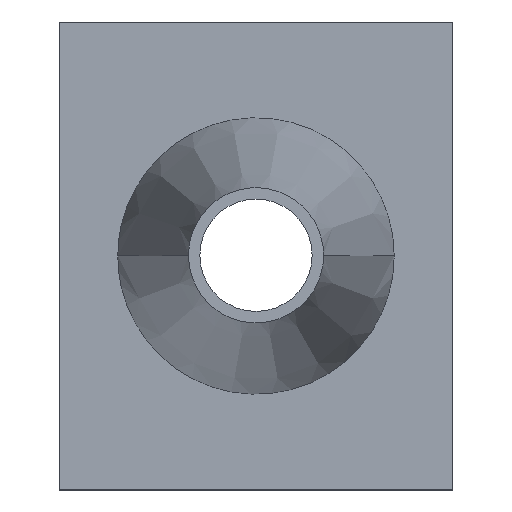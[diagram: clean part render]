
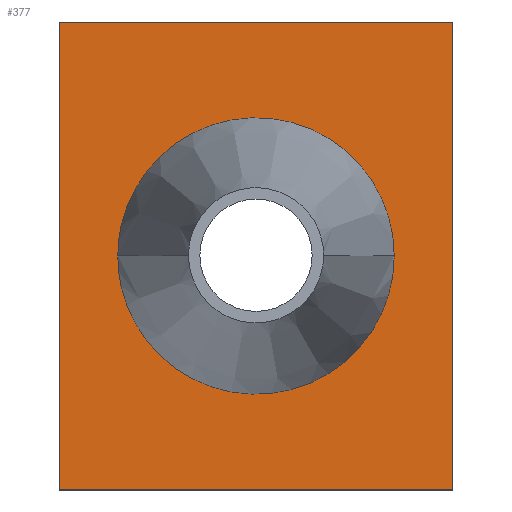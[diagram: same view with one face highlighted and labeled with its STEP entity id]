
A CAD part, top view. The second image highlights one B-rep face of the part: STEP entity #377.
In plain terms, the highlighted planar face has unit normal (0, 0, 1).
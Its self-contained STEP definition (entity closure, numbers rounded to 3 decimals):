
#167=CARTESIAN_POINT('Vertex',(0.,125.,3.)) ;
#174=CARTESIAN_POINT('Vertex',(0.,0.,3.)) ;
#177=CARTESIAN_POINT('Line Origine',(0.,62.5,3.)) ;
#198=CARTESIAN_POINT('Vertex',(105.,125.,3.)) ;
#201=CARTESIAN_POINT('Line Origine',(52.5,125.,3.)) ;
#222=CARTESIAN_POINT('Vertex',(105.,0.,3.)) ;
#225=CARTESIAN_POINT('Line Origine',(105.,62.5,3.)) ;
#242=CARTESIAN_POINT('Line Origine',(52.5,0.,3.)) ;
#324=CARTESIAN_POINT('Axis2P3D Location',(0.,0.,3.)) ;
#336=CARTESIAN_POINT('Control Point',(89.413,62.5,3.)) ;
#337=CARTESIAN_POINT('Control Point',(89.413,68.468,3.)) ;
#338=CARTESIAN_POINT('Control Point',(88.207,74.436,3.)) ;
#339=CARTESIAN_POINT('Control Point',(85.793,80.08,3.)) ;
#340=CARTESIAN_POINT('Control Point',(78.826,90.069,3.)) ;
#341=CARTESIAN_POINT('Control Point',(68.526,96.568,3.)) ;
#342=CARTESIAN_POINT('Control Point',(62.777,98.72,3.)) ;
#343=CARTESIAN_POINT('Control Point',(50.74,100.579,3.)) ;
#344=CARTESIAN_POINT('Control Point',(38.926,97.617,3.)) ;
#345=CARTESIAN_POINT('Control Point',(33.399,94.945,3.)) ;
#346=CARTESIAN_POINT('Control Point',(24.295,87.947,3.)) ;
#347=CARTESIAN_POINT('Control Point',(18.427,78.133,3.)) ;
#348=CARTESIAN_POINT('Control Point',(16.533,73.073,3.)) ;
#349=CARTESIAN_POINT('Control Point',(15.587,67.786,3.)) ;
#350=CARTESIAN_POINT('Control Point',(15.587,62.5,3.)) ;
#351=CARTESIAN_POINT('Vertex',(89.413,62.5,3.)) ;
#353=CARTESIAN_POINT('Vertex',(15.587,62.5,3.)) ;
#357=CARTESIAN_POINT('Control Point',(89.413,62.5,3.)) ;
#358=CARTESIAN_POINT('Control Point',(89.413,56.532,3.)) ;
#359=CARTESIAN_POINT('Control Point',(88.207,50.564,3.)) ;
#360=CARTESIAN_POINT('Control Point',(85.793,44.92,3.)) ;
#361=CARTESIAN_POINT('Control Point',(78.826,34.931,3.)) ;
#362=CARTESIAN_POINT('Control Point',(68.526,28.432,3.)) ;
#363=CARTESIAN_POINT('Control Point',(62.777,26.28,3.)) ;
#364=CARTESIAN_POINT('Control Point',(50.74,24.421,3.)) ;
#365=CARTESIAN_POINT('Control Point',(38.926,27.383,3.)) ;
#366=CARTESIAN_POINT('Control Point',(33.399,30.055,3.)) ;
#367=CARTESIAN_POINT('Control Point',(24.295,37.053,3.)) ;
#368=CARTESIAN_POINT('Control Point',(18.427,46.867,3.)) ;
#369=CARTESIAN_POINT('Control Point',(16.533,51.927,3.)) ;
#370=CARTESIAN_POINT('Control Point',(15.587,57.214,3.)) ;
#371=CARTESIAN_POINT('Control Point',(15.587,62.5,3.)) ;
#178=DIRECTION('Vector Direction',(0.,1.,0.)) ;
#202=DIRECTION('Vector Direction',(-1.,0.,0.)) ;
#226=DIRECTION('Vector Direction',(0.,1.,0.)) ;
#243=DIRECTION('Vector Direction',(1.,0.,0.)) ;
#325=DIRECTION('Axis2P3D Direction',(0.,0.,1.)) ;
#326=DIRECTION('Axis2P3D XDirection',(1.,0.,0.)) ;
#327=AXIS2_PLACEMENT_3D('Plane Axis2P3D',#324,#325,#326) ;
#330=ORIENTED_EDGE('',*,*,#181,.F.) ;
#331=ORIENTED_EDGE('',*,*,#246,.T.) ;
#332=ORIENTED_EDGE('',*,*,#229,.T.) ;
#333=ORIENTED_EDGE('',*,*,#205,.T.) ;
#374=ORIENTED_EDGE('',*,*,#355,.F.) ;
#375=ORIENTED_EDGE('',*,*,#372,.T.) ;
#376=FACE_BOUND('',#373,.T.) ;
#179=VECTOR('Line Direction',#178,1.) ;
#203=VECTOR('Line Direction',#202,1.) ;
#227=VECTOR('Line Direction',#226,1.) ;
#244=VECTOR('Line Direction',#243,1.) ;
#377=ADVANCED_FACE('PartBody',(#334,#376),#328,.T.) ;
#335=B_SPLINE_CURVE_WITH_KNOTS('',5,(#336,#337,#338,#339,#340,#341,#342,#343,#344,#345,#346,#347,#348,#349,#350),.UNSPECIFIED.,.F.,.U.,(6,3,3,3,6),(0.,32.211,64.426,96.642,125.172),.UNSPECIFIED.) ;
#356=B_SPLINE_CURVE_WITH_KNOTS('',5,(#357,#358,#359,#360,#361,#362,#363,#364,#365,#366,#367,#368,#369,#370,#371),.UNSPECIFIED.,.F.,.U.,(6,3,3,3,6),(0.,32.211,64.426,96.642,125.172),.UNSPECIFIED.) ;
#181=EDGE_CURVE('',#175,#168,#180,.T.) ;
#205=EDGE_CURVE('',#199,#168,#204,.T.) ;
#229=EDGE_CURVE('',#223,#199,#228,.T.) ;
#246=EDGE_CURVE('',#175,#223,#245,.T.) ;
#355=EDGE_CURVE('',#352,#354,#335,.T.) ;
#372=EDGE_CURVE('',#352,#354,#356,.T.) ;
#329=EDGE_LOOP('',(#330,#331,#332,#333)) ;
#373=EDGE_LOOP('',(#374,#375)) ;
#334=FACE_OUTER_BOUND('',#329,.T.) ;
#180=LINE('Line',#177,#179) ;
#204=LINE('Line',#201,#203) ;
#228=LINE('Line',#225,#227) ;
#245=LINE('Line',#242,#244) ;
#328=PLANE('',#327) ;
#168=VERTEX_POINT('',#167) ;
#175=VERTEX_POINT('',#174) ;
#199=VERTEX_POINT('',#198) ;
#223=VERTEX_POINT('',#222) ;
#352=VERTEX_POINT('',#351) ;
#354=VERTEX_POINT('',#353) ;
